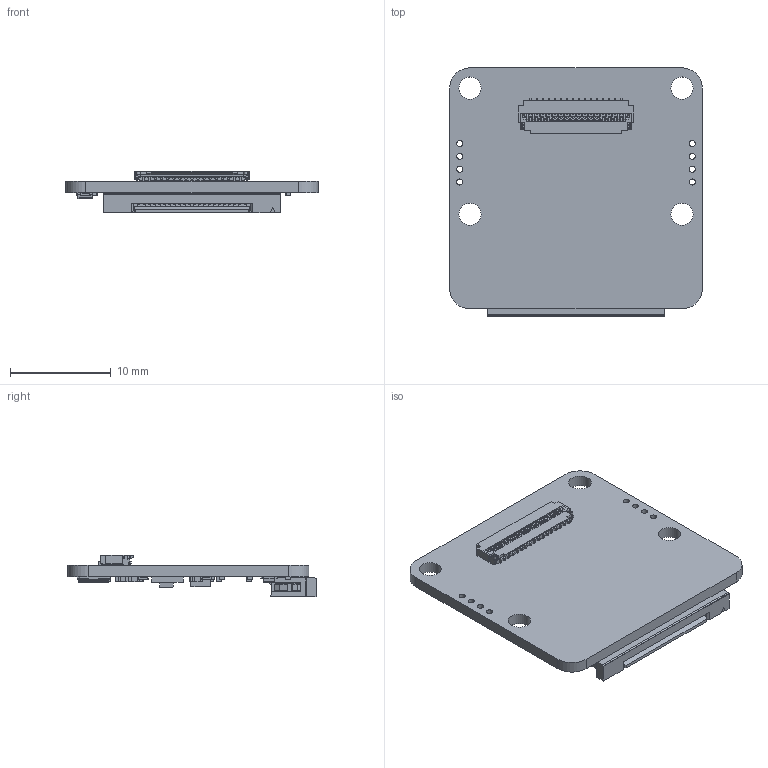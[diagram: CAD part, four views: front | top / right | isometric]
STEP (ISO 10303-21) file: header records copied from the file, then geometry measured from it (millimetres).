
FILE_DESCRIPTION(('Open CASCADE Model'),'2;1');
FILE_NAME('Open CASCADE Shape Model','2022-09-13T13:59:37',('Author'),( 'Open CASCADE'),'Open CASCADE STEP processor 6.8','Open CASCADE 6.8' ,'Unknown');
FILE_SCHEMA(('AUTOMOTIVE_DESIGN { 1 0 10303 214 1 1 1 1 }'));
Length unit declared in the file: millimetre
Products named in the file (91): PCB; Board; Open CASCADE STEP translator 6.8 1.1.1; U2; 6361423920; FH26-33S-0.3SHW_\X2\7C217565\X0\; L4; 6007140144; User_Library-CAPC_0402_CAPC_0402_Lead_1; User_Library-CAPC_0402_CAPC_0402_Body_1; U4; 6007140384; L2; G1; User_Library-3225-1; U3; SW3DPS-SOT-23-5-DEFAULT; D1; User_Library-SOT-563; C11; C9; 6007140224; C8; C5; C4; C3; C2; R2; User_Library-res0402-1; R1; U1; P2; 524352271; Open CASCADE STEP translator 6.8 1.19.1.1; Open CASCADE STEP translator 6.8 1.19.1.2; C14; C15; C17; C18; C19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
Assembly tree (135 placements, depth 4):
  PCB
    Board
      Open CASCADE STEP translator 6.8 1.1.1
    U2
      6361423920
        FH26-33S-0.3SHW_\X2\7C217565\X0\
    L4
      6007140144
        User_Library-CAPC_0402_CAPC_0402_Lead_1  x2
        User_Library-CAPC_0402_CAPC_0402_Body_1
    U4
      6007140384
    L2
      6007140144
        User_Library-CAPC_0402_CAPC_0402_Lead_1  x2
        User_Library-CAPC_0402_CAPC_0402_Body_1
    G1
      User_Library-3225-1
    U3
      SW3DPS-SOT-23-5-DEFAULT
    D1
      User_Library-SOT-563
    C11
      6007140144
        User_Library-CAPC_0402_CAPC_0402_Lead_1  x2
        User_Library-CAPC_0402_CAPC_0402_Body_1
    C9
      6007140224
        User_Library-CAPC_0402_CAPC_0402_Lead_1  x2
        User_Library-CAPC_0402_CAPC_0402_Body_1
    C8
      6007140144
        User_Library-CAPC_0402_CAPC_0402_Lead_1  x2
        User_Library-CAPC_0402_CAPC_0402_Body_1
    C5
      6007140224
        User_Library-CAPC_0402_CAPC_0402_Lead_1  x2
        User_Library-CAPC_0402_CAPC_0402_Body_1
    C4
      6007140224
        User_Library-CAPC_0402_CAPC_0402_Lead_1  x2
        User_Library-CAPC_0402_CAPC_0402_Body_1
    C3
      6007140144
        User_Library-CAPC_0402_CAPC_0402_Lead_1  x2
        User_Library-CAPC_0402_CAPC_0402_Body_1
    C2
      6007140224
        User_Library-CAPC_0402_CAPC_0402_Lead_1  x2
        User_Library-CAPC_0402_CAPC_0402_Body_1
    R2
      User_Library-res0402-1
    R1
      User_Library-res0402-1
    U1
      SW3DPS-SOT-23-5-DEFAULT
    P2
      524352271
        Open CASCADE STEP translator 6.8 1.19.1.1
        Open CASCADE STEP translator 6.8 1.19.1.2
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Bounding box: 25 x 24.58 x 4.13 mm (x, y, z)
Volume: 841.9 mm3; surface area: 2191.5 mm2
Topology: 117 solids, 117 shells, 3798 faces, 10347 edges, 6864 vertices
Faces by surface type: plane 3428, cylinder 338, bspline 20, sphere 12
Full cylindrical faces by diameter (mm): 0.6 x8, 2.2 x4
Entity records: 92237 total; most frequent: CARTESIAN_POINT 16387, ORIENTED_EDGE 15248, DIRECTION 13852, EDGE_CURVE 7624, LINE 7054, VECTOR 7054, VERTEX_POINT 5000, AXIS2_PLACEMENT_3D 3399
